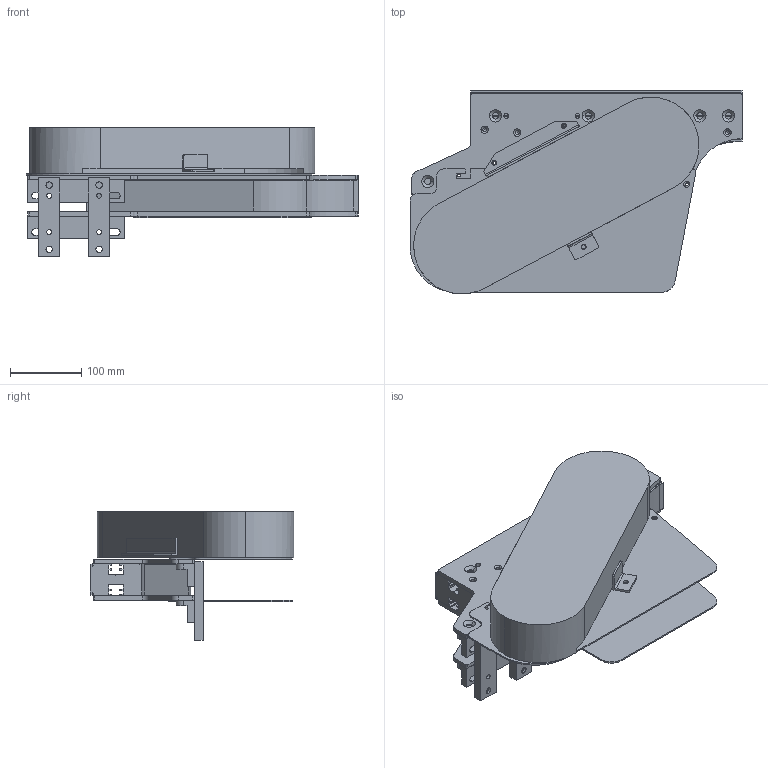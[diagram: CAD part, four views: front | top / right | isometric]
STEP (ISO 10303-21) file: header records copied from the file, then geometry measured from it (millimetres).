
FILE_DESCRIPTION (( 'STEP AP214' ), '1' );
FILE_NAME ('FKID SD 0R.step', '2017-04-07T11:07:17', ( '' ), ( '' ), 'SwSTEP 2.0', 'SolidWorks 2016', '' );
FILE_SCHEMA (( 'AUTOMOTIVE_DESIGN' ));
Length unit declared in the file: millimetre
Products named in the file (1): FKID SD 0R
Bounding box: 465.3 x 285.65 x 180.5 mm (x, y, z)
Volume: 2798370.3 mm3; surface area: 880624.9 mm2
Topology: 10 solids, 10 shells, 580 faces, 1585 edges, 1004 vertices
Faces by surface type: cylinder 264, plane 190, cone 120, torus 6
Entity records: 18930 total; most frequent: DIRECTION 3353, CARTESIAN_POINT 3118, ORIENTED_EDGE 3066, EDGE_CURVE 1533, AXIS2_PLACEMENT_3D 1239, VERTEX_POINT 1004, VECTOR 875, LINE 875
